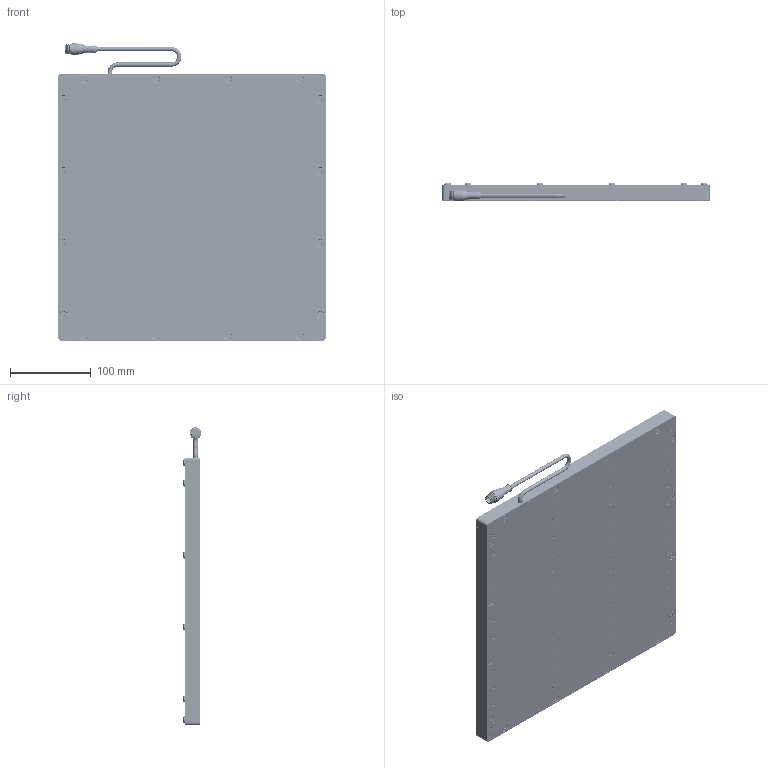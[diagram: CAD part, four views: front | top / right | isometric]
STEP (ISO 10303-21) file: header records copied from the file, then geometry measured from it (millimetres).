
FILE_DESCRIPTION (( 'STEP AP214' ), '1' );
FILE_NAME ('SBL1212-XXX.STEP', '2026-04-15T21:18:03', ( '' ), ( '' ), 'SwSTEP 2.0', 'SolidWorks 2025', '' );
FILE_SCHEMA (( 'AUTOMOTIVE_DESIGN' ));
Length unit declared in the file: inch
Products named in the file (11): Hex Standoff .375 x 8-32; BackPlate BLYYXX_1212; SBL1212-XXX; WD-SBLYYXX_12x12 with holes; M12 Connector 4,5 and 8 pin_RS4.5T; SBL3 to 18in rail_12in No CG; SC Pigtail Complete 18_5pin; 8-32 x 0.375 FHCS (92210A192)_92210A192; MC Pigtail 24; SBL3 to 18in rail_12in rail; 8-32 x .375 Nylon Screw_.375" 94611A192
Assembly tree (57 placements, depth 3):
  SBL1212-XXX
    BackPlate BLYYXX_1212
    SBL3 to 18in rail_12in rail
    SBL3 to 18in rail_12in No CG  x3
    SC Pigtail Complete 18_5pin
      MC Pigtail 24
      M12 Connector 4,5 and 8 pin_RS4.5T
    WD-SBLYYXX_12x12 with holes
    Hex Standoff .375 x 8-32  x16
    8-32 x 0.375 FHCS (92210A192)_92210A192  x16
    8-32 x .375 Nylon Screw_.375" 94611A192  x16
Bounding box: 330.2 x 23.38 x 367.73 mm (x, y, z)
Volume: 888581.5 mm3; surface area: 541814.7 mm2
Topology: 56 solids, 56 shells, 1810 faces, 4516 edges, 2883 vertices
Faces by surface type: plane 673, bspline 432, cylinder 380, cone 275, torus 29, sphere 21
Full cylindrical faces by diameter (mm): 0.762 x5, 2.705 x48, 3.454 x20, 4.496 x48, 5.207 x3, 6.604 x8, 6.858 x16, 8.128 x16, 8.382 x1, 8.636 x1, 9.119 x16, 10.16 x1, 10.541 x1, 11.938 x1, 13.716 x2, 14.732 x1
Entity records: 18228 total; most frequent: CARTESIAN_POINT 5969, DIRECTION 2248, ORIENTED_EDGE 1830, AXIS2_PLACEMENT_3D 951, EDGE_CURVE 915, EDGE_LOOP 828, VERTEX_POINT 701, FACE_OUTER_BOUND 569
